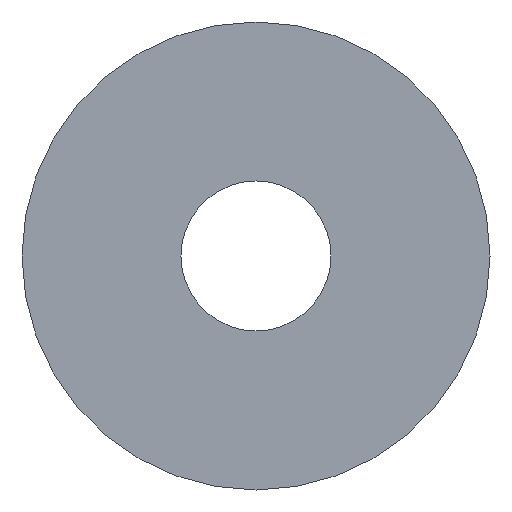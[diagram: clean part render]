
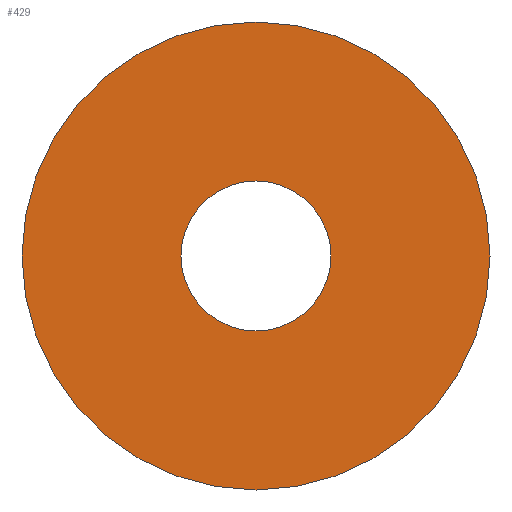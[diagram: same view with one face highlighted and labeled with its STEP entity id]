
A CAD part, left-side view. The second image highlights one B-rep face of the part: STEP entity #429.
In plain terms, the highlighted planar face has unit normal (-1, 0, 0).
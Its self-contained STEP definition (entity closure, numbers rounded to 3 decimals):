
#33 = VERTEX_POINT('',#34);
#34 = CARTESIAN_POINT('',(2.,19.5,0.));
#40 = EDGE_CURVE('',#41,#33,#43,.T.);
#41 = VERTEX_POINT('',#42);
#42 = CARTESIAN_POINT('',(2.,-19.5,0.));
#43 = CIRCLE('',#44,19.5);
#44 = AXIS2_PLACEMENT_3D('',#45,#46,#47);
#45 = CARTESIAN_POINT('',(2.,0.,0.));
#46 = DIRECTION('',(-1.,0.,0.));
#47 = DIRECTION('',(0.,-1.,0.));
#63 = EDGE_CURVE('',#41,#33,#64,.T.);
#64 = CIRCLE('',#65,19.5);
#65 = AXIS2_PLACEMENT_3D('',#66,#67,#68);
#66 = CARTESIAN_POINT('',(2.,0.,0.));
#67 = DIRECTION('',(1.,0.,0.));
#68 = DIRECTION('',(0.,-1.,0.));
#401 = EDGE_CURVE('',#402,#404,#406,.T.);
#402 = VERTEX_POINT('',#403);
#403 = CARTESIAN_POINT('',(2.,0.,-6.25));
#404 = VERTEX_POINT('',#405);
#405 = CARTESIAN_POINT('',(2.,0.,6.25));
#406 = CIRCLE('',#407,6.25);
#407 = AXIS2_PLACEMENT_3D('',#408,#409,#410);
#408 = CARTESIAN_POINT('',(2.,0.,0.));
#409 = DIRECTION('',(1.,-0.,0.));
#410 = DIRECTION('',(0.,0.,-1.));
#429 = ADVANCED_FACE('',(#430,#434),#444,.T.);
#430 = FACE_BOUND('',#431,.F.);
#431 = EDGE_LOOP('',(#432,#433));
#432 = ORIENTED_EDGE('',*,*,#40,.F.);
#433 = ORIENTED_EDGE('',*,*,#63,.T.);
#434 = FACE_BOUND('',#435,.F.);
#435 = EDGE_LOOP('',(#436,#437));
#436 = ORIENTED_EDGE('',*,*,#401,.F.);
#437 = ORIENTED_EDGE('',*,*,#438,.F.);
#438 = EDGE_CURVE('',#404,#402,#439,.T.);
#439 = CIRCLE('',#440,6.25);
#440 = AXIS2_PLACEMENT_3D('',#441,#442,#443);
#441 = CARTESIAN_POINT('',(2.,0.,0.));
#442 = DIRECTION('',(1.,0.,-0.));
#443 = DIRECTION('',(0.,0.,1.));
#444 = PLANE('',#445);
#445 = AXIS2_PLACEMENT_3D('',#446,#447,#448);
#446 = CARTESIAN_POINT('',(2.,0.,0.));
#447 = DIRECTION('',(-1.,0.,0.));
#448 = DIRECTION('',(0.,1.,0.));
